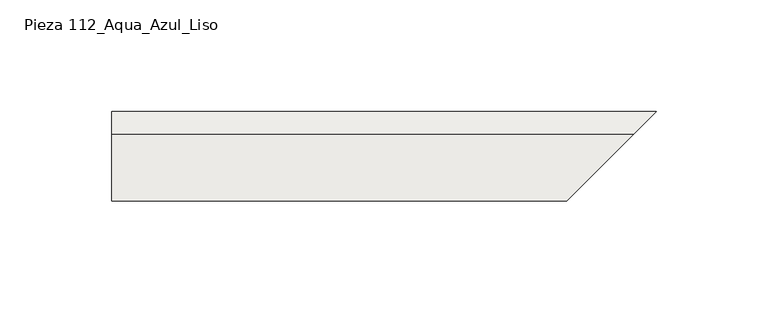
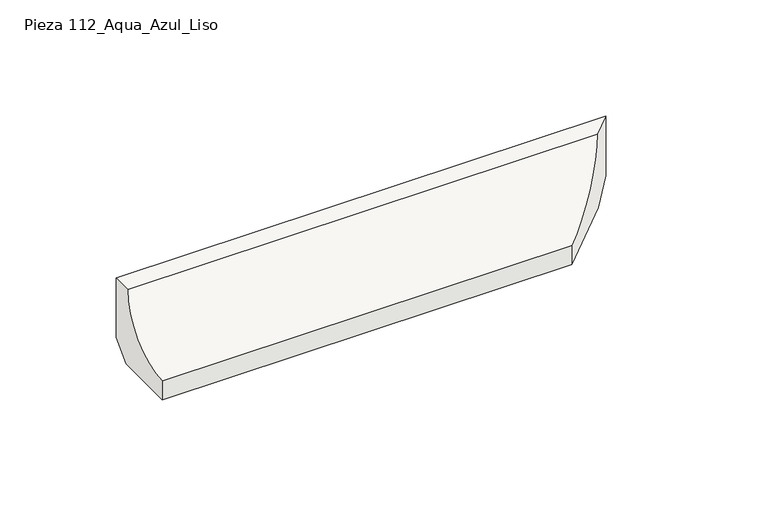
"""IFC4 building model written with IfcOpenShell, lengths in millimetres: slab geometry, ROSA GRES_112 (corte) : Pieza 112_Aqua_Azul_Liso."""

from ifc_helpers import new_model, si_unit, frame, origin, place, context, project, spatial, polyline, circle_curve, ellipse_curve, source, transform, mapped, element, save
from ifc_brep_helpers import plane_surface, revolved_surface, advanced_brep


def pieza_112_aqua_azul_liso_8ca1fe8c(model_context):
    return source(origin(), model_context, "Body", "AdvancedBrep", [
        advanced_brep(
        [(0.0, 0.0, 8.7114978), (0.0, -8.7114978, 0.0), (0.0, -40.0, 0.0), (0.0, -40.0, 9.9734114), (0.0, -9.9734114, 40.0), (0.0, 0.0, 40.0), (243.5, 0.0, 40.0), (243.5, 0.0, 8.7114978), (233.5265886, -9.9734114, 40.0), (203.5, -40.0, 9.9734114), (203.5, -40.0, 0.0), (234.7885022, -8.7114978, 0.0)],
        [
            (0, 1),
            (1, 2),
            (2, 3),
            (3, 4, circle_curve(frame((0.0, -39.9955547, 39.9955547), z_axis=(1.0, 0.0, 0.0), x_axis=(0.0, -1.0, 0.0)), 30.0221435)),
            (4, 5),
            (5, 0),
            (5, 6),
            (6, 7),
            (7, 0),
            (4, 8),
            (8, 6),
            (3, 9),
            (9, 8, ellipse_curve(frame((203.5044453, -39.9955547, 39.9955547), z_axis=(0.7071067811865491, -0.707106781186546, 0.0), x_axis=(0.7071067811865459, 0.7071067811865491, 0.0)), 42.4577226, 30.0221435)),
            (2, 10),
            (10, 9),
            (1, 11),
            (11, 10),
            (7, 11),
        ],
        [
            plane_surface(frame((0.0, 0.0, 0.0), z_axis=(-1.0, 0.0, 0.0), x_axis=(0.0, 0.0, 1.0))),
            plane_surface(frame((0.0, 0.0, 8.7114978), z_axis=(0.0, 1.0, 0.0), x_axis=(1.0, 0.0, 0.0))),
            plane_surface(frame((0.0, 0.0, 40.0), z_axis=(0.0, 0.0, 1.0), x_axis=(1.0, 0.0, 0.0))),
            revolved_surface(polyline([(233.52658886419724, -70.0176982, 39.9955547), (0.0, -70.0176982, 39.9955547)]), (0.0, -39.9955547, 39.9955547), (1.0, 0.0, 0.0)),
            plane_surface(frame((0.0, -40.0, 9.9734114), z_axis=(0.0, -1.0, 0.0), x_axis=(1.0, 0.0, 0.0))),
            plane_surface(frame((0.0, -40.0, 0.0), z_axis=(0.0, 0.0, -1.0), x_axis=(1.0, 0.0, 0.0))),
            plane_surface(frame((0.0, -8.7114978, 0.0), z_axis=(0.0, 0.707106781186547, -0.7071067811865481), x_axis=(1.0, 0.0, 0.0))),
            plane_surface(frame((203.0, -40.5, 104.9871832), z_axis=(0.7071067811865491, -0.707106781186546, 0.0), x_axis=(0.0, 0.0, -1.0))),
        ],
        [
            (0, [[1, 2, 3, 4, 5, 6]]),
            (1, [[7, 8, 9, -6]]),
            (2, [[10, 11, -7, -5]]),
            (3, [[12, 13, -10, -4]]),
            (4, [[14, 15, -12, -3]]),
            (5, [[16, 17, -14, -2]]),
            (6, [[-9, 18, -16, -1]]),
            (7, [[-11, -13, -15, -17, -18, -8]]),
        ],
    ),
    ])


if __name__ == "__main__":
    model = new_model("IFC4")
    model_context = context("Model", 3, world=origin())
    ifc_project = project(units=[si_unit("LENGTHUNIT", "METRE", prefix="MILLI")], contexts=[model_context])
    site = spatial("IfcSite", under=ifc_project)
    building = spatial("IfcBuilding", under=site)
    placement = place(None, origin())
    pieza_112_aqua_azul_liso_shape = pieza_112_aqua_azul_liso_8ca1fe8c(model_context)
    element("IfcSlab", 1, ObjectType="ROSA GRES_112 (corte) : Pieza 112_Aqua_Azul_Liso", at=placement, inside=building, context=model_context, shape_type="MappedRepresentation", body=[
        mapped(pieza_112_aqua_azul_liso_shape, transform((0.0, 0.0, 0.0), x_axis=(1.0, 0.0, 0.0), y_axis=(0.0, 1.0, 0.0), z_axis=(0.0, 0.0, 1.0))),
    ])
    save(model, "model.ifc")
